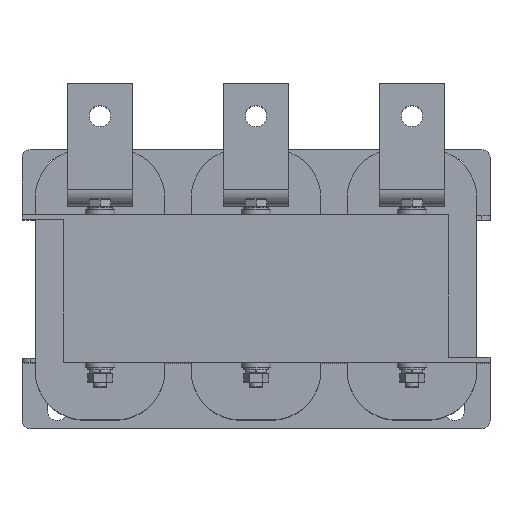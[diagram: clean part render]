
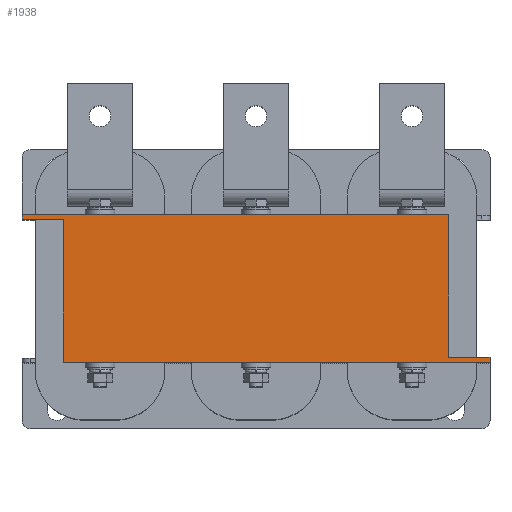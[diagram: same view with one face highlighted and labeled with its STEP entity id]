
A CAD part, top view. The second image highlights one B-rep face of the part: STEP entity #1938.
In plain terms, the highlighted planar face has unit normal (0, 0, 1).
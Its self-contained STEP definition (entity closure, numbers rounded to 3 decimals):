
#1938=ADVANCED_FACE('',(#2518),#2520,.T.);
#2518=FACE_BOUND('',#2519,.T.);
#2519=EDGE_LOOP('',(#3446,#3447,#3448,#3449,#3450,#3451,#3452,#3453));
#2520=PLANE('',#2521);
#2521=AXIS2_PLACEMENT_3D('',#2522,#2523,#2524);
#2522=CARTESIAN_POINT('',(0.,0.,45.));
#2523=DIRECTION('',(0.,0.,1.));
#2524=DIRECTION('',(-1.,0.,0.));
#3446=ORIENTED_EDGE('',*,*,#3934,.T.);
#3447=ORIENTED_EDGE('',*,*,#3913,.T.);
#3448=ORIENTED_EDGE('',*,*,#3935,.T.);
#3449=ORIENTED_EDGE('',*,*,#3905,.T.);
#3450=ORIENTED_EDGE('',*,*,#3936,.T.);
#3451=ORIENTED_EDGE('',*,*,#3894,.T.);
#3452=ORIENTED_EDGE('',*,*,#3937,.T.);
#3453=ORIENTED_EDGE('',*,*,#3886,.T.);
#3886=EDGE_CURVE('',#4278,#4276,#4279,.T.);
#3894=EDGE_CURVE('',#4294,#4292,#4295,.T.);
#3905=EDGE_CURVE('',#4316,#4314,#4317,.T.);
#3913=EDGE_CURVE('',#4332,#4330,#4333,.T.);
#3934=EDGE_CURVE('',#4276,#4332,#4361,.T.);
#3935=EDGE_CURVE('',#4330,#4316,#4362,.T.);
#3936=EDGE_CURVE('',#4314,#4294,#4363,.T.);
#3937=EDGE_CURVE('',#4292,#4278,#4364,.T.);
#4276=VERTEX_POINT('',#5054);
#4278=VERTEX_POINT('',#5058);
#4279=LINE('',#5059,#5060);
#4292=VERTEX_POINT('',#5088);
#4294=VERTEX_POINT('',#5092);
#4295=LINE('',#5093,#5094);
#4314=VERTEX_POINT('',#5137);
#4316=VERTEX_POINT('',#5141);
#4317=LINE('',#5142,#5143);
#4330=VERTEX_POINT('',#5171);
#4332=VERTEX_POINT('',#5175);
#4333=LINE('',#5176,#5177);
#4361=LINE('',#5251,#5252);
#4362=LINE('',#5254,#5255);
#4363=LINE('',#5257,#5258);
#4364=LINE('',#5260,#5261);
#5054=CARTESIAN_POINT('',(-117.5,42.,45.));
#5058=CARTESIAN_POINT('',(-142.5,42.,45.));
#5059=CARTESIAN_POINT('',(-142.5,42.,45.));
#5060=VECTOR('',#5061,1.);
#5061=DIRECTION('',(1.,0.,0.));
#5088=CARTESIAN_POINT('',(-142.5,45.,45.));
#5092=CARTESIAN_POINT('',(117.5,45.,45.));
#5093=CARTESIAN_POINT('',(117.5,45.,45.));
#5094=VECTOR('',#5095,1.);
#5095=DIRECTION('',(-1.,0.,0.));
#5137=CARTESIAN_POINT('',(117.5,-42.,45.));
#5141=CARTESIAN_POINT('',(142.5,-42.,45.));
#5142=CARTESIAN_POINT('',(142.5,-42.,45.));
#5143=VECTOR('',#5144,1.);
#5144=DIRECTION('',(-1.,0.,0.));
#5171=CARTESIAN_POINT('',(142.5,-45.,45.));
#5175=CARTESIAN_POINT('',(-117.5,-45.,45.));
#5176=CARTESIAN_POINT('',(-117.5,-45.,45.));
#5177=VECTOR('',#5178,1.);
#5178=DIRECTION('',(1.,0.,0.));
#5251=CARTESIAN_POINT('',(-117.5,42.,45.));
#5252=VECTOR('',#5253,1.);
#5253=DIRECTION('',(0.,-1.,0.));
#5254=CARTESIAN_POINT('',(142.5,-45.,45.));
#5255=VECTOR('',#5256,1.);
#5256=DIRECTION('',(0.,1.,0.));
#5257=CARTESIAN_POINT('',(117.5,-42.,45.));
#5258=VECTOR('',#5259,1.);
#5259=DIRECTION('',(0.,1.,0.));
#5260=CARTESIAN_POINT('',(-142.5,45.,45.));
#5261=VECTOR('',#5262,1.);
#5262=DIRECTION('',(0.,-1.,0.));
